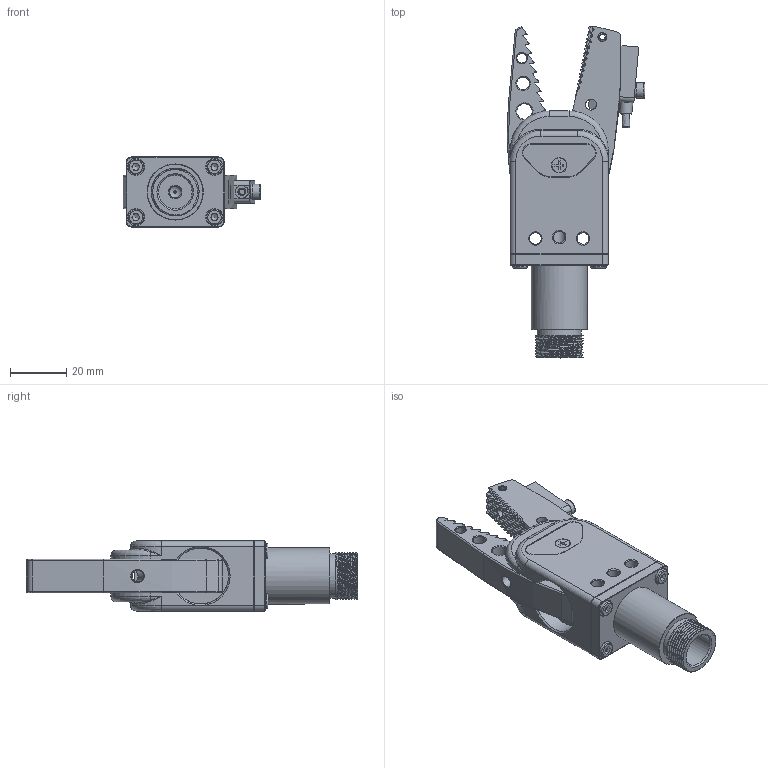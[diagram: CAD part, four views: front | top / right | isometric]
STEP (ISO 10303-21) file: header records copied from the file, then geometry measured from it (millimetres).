
FILE_DESCRIPTION(/* description */ (''),/* implementation_level */ '2;1');
FILE_NAME(/* name */ 'GR20I-20-CP.stp',/* time_stamp */ '2023-03-08T16:47:19+08:00',/* author */ (''),/* organization */ (''),/* preprocessor_version */ 'ST-DEVELOPER v16',/* originating_system */ 'SIEMENS PLM Software NX 10.0',/* authorisation */ '');
FILE_SCHEMA (('AUTOMOTIVE_DESIGN { 1 0 10303 214 3 1 1 1 }'));
Products named in the file (1): Admi115498B06jk3
Bounding box: 49.18 x 118.39 x 25 mm (x, y, z)
Volume: 52963.5 mm3; surface area: 24468 mm2
Topology: 6 solids, 21 shells, 1096 faces, 2889 edges, 1883 vertices
Faces by surface type: plane 727, cylinder 180, cone 117, bspline 37, revolution 35
Full cylindrical faces by diameter (mm): 0.8 x1, 2.5 x4, 3 x29, 3.2 x2, 3.3 x1, 3.4 x5, 3.5 x1, 3.541 x4, 4 x9, 4.2 x7, 4.3 x1, 4.5 x2, 5 x4, 5.2 x1, 5.5 x7, 6 x4, 7 x1, 7.8 x2, 12 x1, 15.8 x1, 20 x1
Entity records: 55612 total; most frequent: CARTESIAN_POINT 22488, ORIENTED_EDGE 5066, DIRECTION 5035, EDGE_CURVE 2533, LINE 1826, VECTOR 1826, VERTEX_POINT 1750, AXIS2_PLACEMENT_3D 1587
